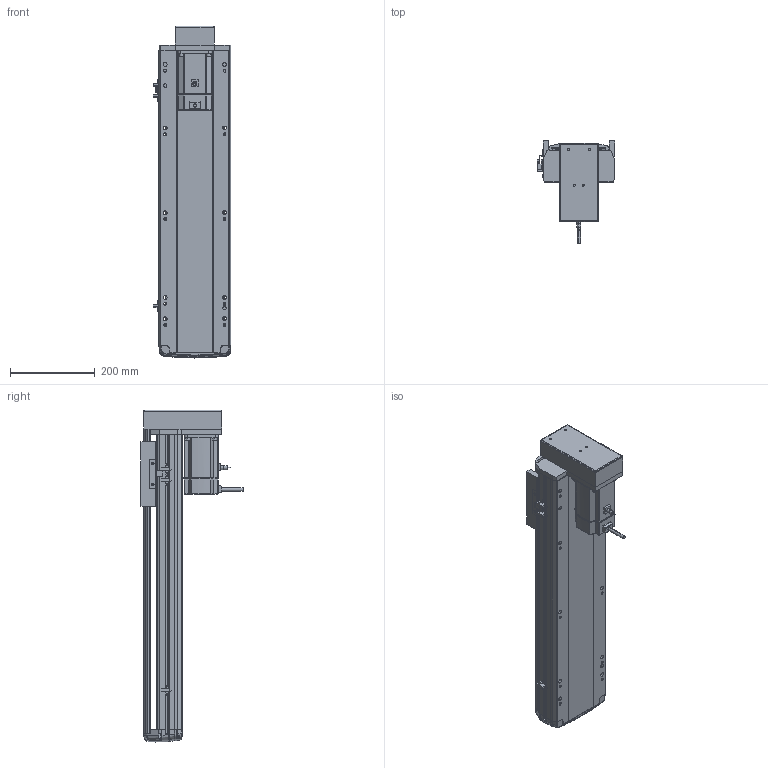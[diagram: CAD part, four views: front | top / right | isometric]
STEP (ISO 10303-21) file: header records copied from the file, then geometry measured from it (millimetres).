
FILE_DESCRIPTION (( 'STEP AP214' ), '1' );
FILE_NAME ('RTH17-XX-500-M-M75-C4.STEP', '2025-10-24T10:23:52', ( '' ), ( '' ), 'SwSTEP 2.0', 'SolidWorks 2018', '' );
FILE_SCHEMA (( 'AUTOMOTIVE_DESIGN' ));
Length unit declared in the file: millimetre
Products named in the file (10): N_RTH17-M-007上盖^RTH17-XX-XX-M-M75-C4（方程式）; N_RTH17-M-018盖子^RTH17-XX-XX-M-M75-C4（方程式）; N_RTH17-M-008-P75电机安装板下折750W^RTH17-XX-XX-M-M75-C4（方程式）; N_RTH-BL-012 感应片(外置)^RTH17-XX-XX-M-M75-C4（方程式）; N_RTH17-M-011底座^RTH17-XX-XX-M-M75-C4（方程式）; N_OMRON EE-SX672 換覜ん^RTH17-XX-XX-M-M75-C4ㄗ源最宒ㄘ; RTH17-XX-500-M-M75-C4; N_RTH17-GY-001P^RTH17-XX-XX-M-M75-C4（方程式）; N_RTH17-E-004丝杆螺母连接座^RTH17-XX-XX-M-M75-C4（方程式）; N_M75^RTH17-XX-XX-M-M75-C4（方程式）
Assembly tree (11 placements, depth 2):
  RTH17-XX-500-M-M75-C4
    N_RTH17-M-011底座^RTH17-XX-XX-M-M75-C4（方程式）
    N_RTH17-M-007上盖^RTH17-XX-XX-M-M75-C4（方程式）
    N_M75^RTH17-XX-XX-M-M75-C4（方程式）
    N_OMRON EE-SX672 換覜ん^RTH17-XX-XX-M-M75-C4ㄗ源最宒ㄘ  x3
    N_RTH-BL-012 感应片(外置)^RTH17-XX-XX-M-M75-C4（方程式）
    N_RTH17-M-008-P75电机安装板下折750W^RTH17-XX-XX-M-M75-C4（方程式）
    N_RTH17-M-018盖子^RTH17-XX-XX-M-M75-C4（方程式）
    N_RTH17-E-004丝杆螺母连接座^RTH17-XX-XX-M-M75-C4（方程式）
    N_RTH17-GY-001P^RTH17-XX-XX-M-M75-C4（方程式）
Bounding box: 183.5 x 240.7 x 783.27 mm (x, y, z)
Volume: 6805124.1 mm3; surface area: 981653.1 mm2
Topology: 10 solids, 12 shells, 1741 faces, 4796 edges, 3104 vertices
Faces by surface type: plane 828, cylinder 499, bspline 377, cone 28, torus 9
Entity records: 50655 total; most frequent: CARTESIAN_POINT 20266, ORIENTED_EDGE 6616, DIRECTION 5494, EDGE_CURVE 3312, VERTEX_POINT 2140, AXIS2_PLACEMENT_3D 1843, LINE 1808, VECTOR 1808
